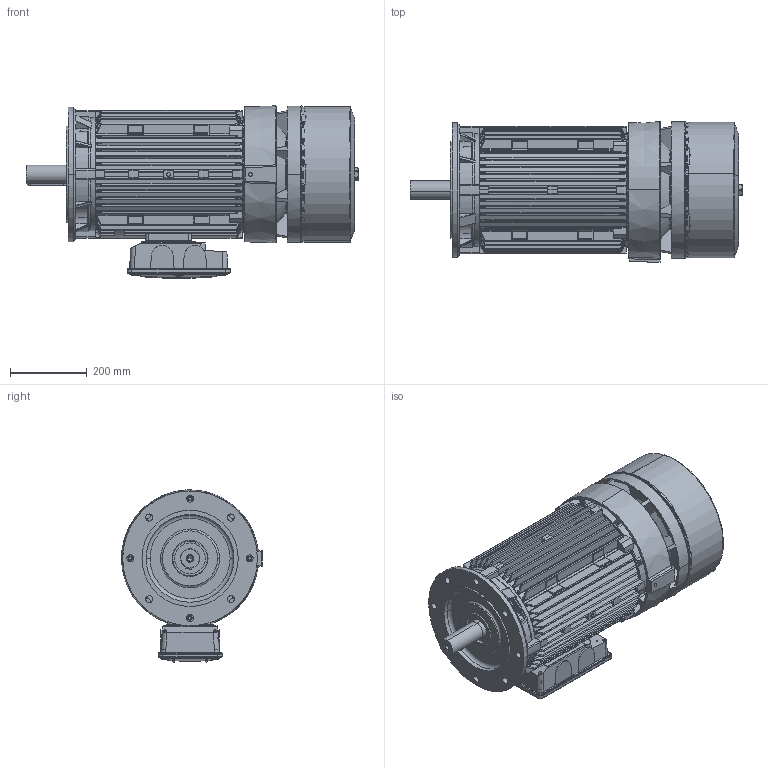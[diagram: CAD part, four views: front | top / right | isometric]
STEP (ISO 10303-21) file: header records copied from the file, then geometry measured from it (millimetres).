
FILE_DESCRIPTION (( 'STEP AP214' ), '1' );
FILE_NAME ('M02MB0011.STEP', '2018-12-07T15:17:45', ( '' ), ( '' ), 'SwSTEP 2.0', 'SolidWorks 2018', '' );
FILE_SCHEMA (( 'AUTOMOTIVE_DESIGN' ));
Length unit declared in the file: millimetre
Products named in the file (16): Scatola Morsettiera Doppia BA 160 - 180 - 200 - D6A70299; Chiavetta 180; Albero BA-CF 180 L; Scudo a Flangia B5 BA 180 Fi 350; Vite a Testa Esagona 20 MB gr. 132-200 - DGAS0094; Cuffia serie BA 180-200; Convogliatore con pista di attrito BA 180-200 P2 - D7AR0298; Scudo Lato Freno BA 180-200 P1 - D7AG0198; Carcassa 180-200 B5; M02MB0011; Scatola Morsettiera Doppia BA 160 - 180 - 200 - Completa; O-ring freno BA 180-200; Guarnizione Basetta BA 160-180 - 200 - D6BB0000; Vite Testa Bombata M6x20; Guarnizione Coperchio Sc. Mor. BA 160-180-200 - D6BA0100; Coperchio Scatola Morsettiera Doppia BA 160 - 180 - 200 - D6A60099
Assembly tree (20 placements, depth 3):
  M02MB0011
    Carcassa 180-200 B5
    Scudo Lato Freno BA 180-200 P1 - D7AG0198
    Convogliatore con pista di attrito BA 180-200 P2 - D7AR0298
    Cuffia serie BA 180-200
    Vite a Testa Esagona 20 MB gr. 132-200 - DGAS0094
    Scudo a Flangia B5 BA 180 Fi 350
    Albero BA-CF 180 L
    Chiavetta 180
    Scatola Morsettiera Doppia BA 160 - 180 - 200 - Completa
      Scatola Morsettiera Doppia BA 160 - 180 - 200 - D6A70299
      Coperchio Scatola Morsettiera Doppia BA 160 - 180 - 200 - D6A60099
      Guarnizione Coperchio Sc. Mor. BA 160-180-200 - D6BA0100
      Vite Testa Bombata M6x20  x6
      Guarnizione Basetta BA 160-180 - 200 - D6BB0000
    O-ring freno BA 180-200
Bounding box: 862.5 x 365.98 x 447.46 mm (x, y, z)
Volume: 15437437.8 mm3; surface area: 3760904.4 mm2
Topology: 19 solids, 19 shells, 3561 faces, 9525 edges, 5872 vertices
Faces by surface type: cylinder 1361, plane 940, bspline 494, torus 384, cone 232, sphere 150
Entity records: 131595 total; most frequent: CARTESIAN_POINT 53105, ORIENTED_EDGE 16730, DIRECTION 15350, EDGE_CURVE 8365, AXIS2_PLACEMENT_3D 6150, VERTEX_POINT 5202, EDGE_LOOP 3485, CIRCLE 3349
